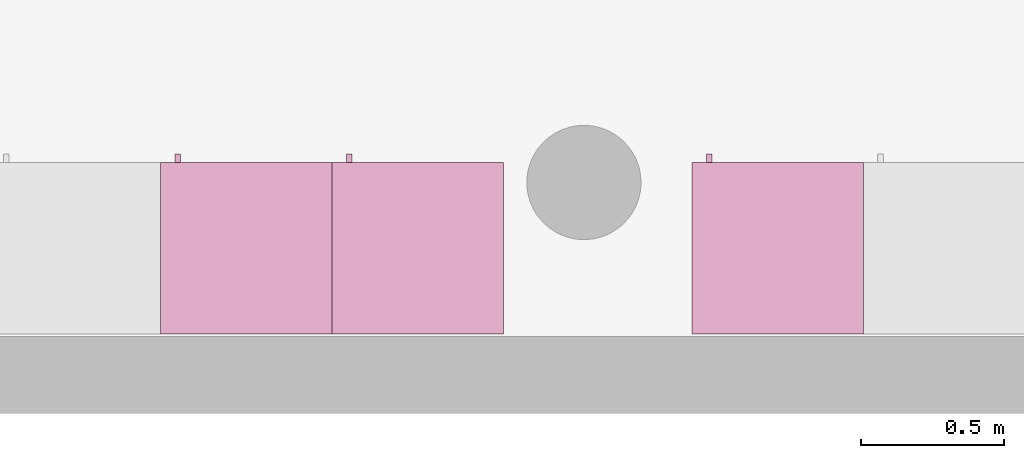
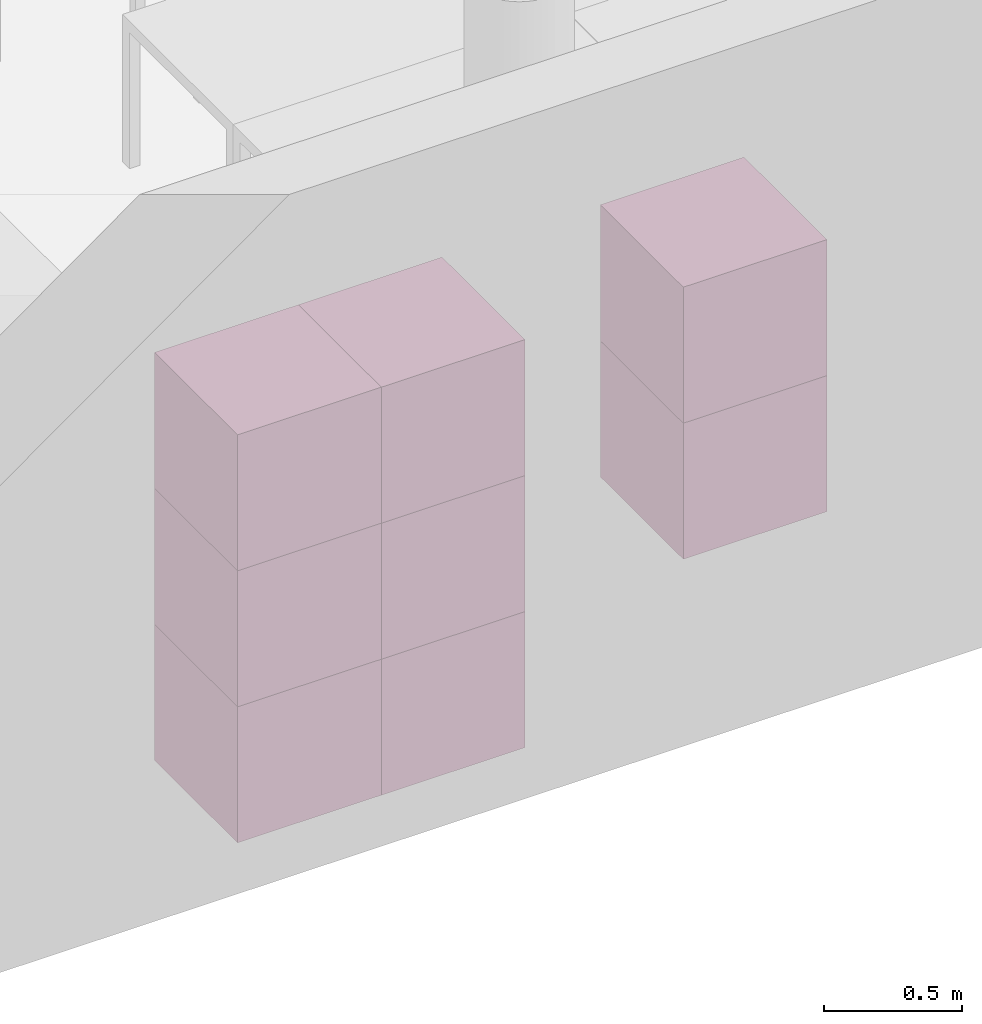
"""IFC4 building model written with IfcOpenShell, lengths in metres."""

from ifc_helpers import new_model, entity, si_unit, converted_unit, derived_unit, frame, origin, place, context, subcontext, project, spatial, faceted_brep, element, save


model = new_model("IFC4")

# Units and contexts
model_context = context("Model", 3, precision=1e-05, world=origin())
body_context = subcontext(model_context, "Body", "Model", "MODEL_VIEW")
ifc_project = project(units=[si_unit("LENGTHUNIT", "METRE"), si_unit("AREAUNIT", "SQUARE_METRE"), si_unit("VOLUMEUNIT", "CUBIC_METRE"), si_unit("MASSUNIT", "GRAM", prefix="KILO"), converted_unit("PLANEANGLEUNIT", "DEGREE", entity("IfcPlaneAngleMeasure", 0.0174532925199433), si_unit("PLANEANGLEUNIT", "RADIAN"), dimensions=[0, 0, 0, 0, 0, 0, 0]), derived_unit("THERMALTRANSMITTANCEUNIT", [(si_unit("POWERUNIT", "WATT"), 1), (si_unit("THERMODYNAMICTEMPERATUREUNIT", "KELVIN"), -1), (si_unit("LENGTHUNIT", "METRE"), -2)]), derived_unit("VOLUMETRICFLOWRATEUNIT", [(si_unit("LENGTHUNIT", "METRE"), 3), (converted_unit("TIMEUNIT", "hour", entity("IfcTimeMeasure", 3600.0), si_unit("TIMEUNIT", "SECOND"), dimensions=[0, 0, 1, 0, 0, 0, 0]), -1), (si_unit("LENGTHUNIT", "METRE"), -1)])], contexts=[model_context])

# Building, storeys
building_placement = place(None, origin())
building = spatial("IfcBuilding", under=ifc_project, at=building_placement, Name="HABITATGE PLURIFAMILIAR", CompositionType="ELEMENT")
storey_1_placement = place(building_placement, frame((0.0, 0.0, 15.28)))
storey_1 = spatial("IfcBuildingStorey", under=building, at=storey_1_placement, Name="PLANTA QUARTA", CompositionType="ELEMENT", Elevation=15.28)
storey_2_placement = place(storey_1_placement, frame((0.0, 0.0, 12.27)))
storey_2 = spatial("IfcBuildingStorey", under=storey_1, at=storey_2_placement, Name="NOU", CompositionType="PARTIAL")

# Furniture
furniture_1_placement = place(storey_2_placement, frame((416.51527037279, 13.1194598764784, -11.77)))
element("IfcFurniture", 1, at=furniture_1_placement, inside=storey_2, Name="Armai 60x60x60_P4", context=body_context, shape_type="Brep", body=[
    faceted_brep([(0.0, 0.6, 0.02), (0.0, 0.6, 0.0), (0.6, 0.6, 0.0), (0.6, 0.6, 0.02), (0.6, 0.0, 0.0), (0.6, 0.0, 0.02), (0.0, 0.0, 0.0), (0.0, 0.0, 0.02)], [[[0, 1, 2, 3]], [[3, 2, 4, 5]], [[5, 4, 6, 7]], [[7, 6, 1, 0]], [[0, 3, 5, 7]], [[1, 6, 4, 2]]], orient=[[False], [False], [False], [False], [False], [False]]),
    faceted_brep([(0.580000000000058, 0.0, 0.58), (0.580000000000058, 0.0200000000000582, 0.58), (0.580000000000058, 0.0200000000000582, 0.02), (0.580000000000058, 0.0, 0.02), (0.0200000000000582, 0.0200000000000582, 0.02), (0.0200000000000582, 0.0, 0.02), (0.0200000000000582, 0.0200000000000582, 0.58), (0.0200000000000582, 0.0, 0.58)], [[[0, 1, 2, 3]], [[3, 2, 4, 5]], [[5, 4, 6, 7]], [[7, 6, 1, 0]], [[0, 3, 5, 7]], [[1, 6, 4, 2]]], orient=[[False], [False], [False], [False], [False], [False]]),
    faceted_brep([(0.0200000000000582, 0.6, 0.58), (0.0, 0.6, 0.58), (0.0, 0.6, 0.02), (0.0200000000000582, 0.6, 0.02), (0.0, 0.0, 0.02), (0.0200000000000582, 0.0, 0.02), (0.0, 0.0, 0.58), (0.0200000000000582, 0.0, 0.58)], [[[0, 1, 2, 3]], [[3, 2, 4, 5]], [[5, 4, 6, 7]], [[7, 6, 1, 0]], [[0, 3, 5, 7]], [[1, 6, 4, 2]]], orient=[[False], [False], [False], [False], [False], [False]]),
    faceted_brep([(0.0, 0.58, 0.58), (0.0, 0.6, 0.58), (0.0, 0.6, 0.02), (0.0, 0.58, 0.02), (0.02, 0.6, 0.02), (0.02, 0.58, 0.02), (0.02, 0.6, 0.58), (0.02, 0.58, 0.58)], [[[0, 1, 2, 3]], [[3, 2, 4, 5]], [[5, 4, 6, 7]], [[7, 6, 1, 0]], [[0, 3, 5, 7]], [[1, 6, 4, 2]]], orient=[[False], [False], [False], [False], [False], [False]]),
    faceted_brep([(0.6, 0.6, 0.58), (0.58, 0.6, 0.58), (0.58, 0.6, 0.02), (0.6, 0.6, 0.02), (0.58, 0.0, 0.02), (0.6, 0.0, 0.02), (0.58, 0.0, 0.58), (0.6, 0.0, 0.58)], [[[0, 1, 2, 3]], [[3, 2, 4, 5]], [[5, 4, 6, 7]], [[7, 6, 1, 0]], [[0, 3, 5, 7]], [[1, 6, 4, 2]]], orient=[[False], [False], [False], [False], [False], [False]]),
    faceted_brep([(0.0, 0.600000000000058, 0.6), (0.0, 0.600000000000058, 0.58), (0.600000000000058, 0.600000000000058, 0.58), (0.600000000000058, 0.600000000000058, 0.6), (0.600000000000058, 0.0, 0.58), (0.600000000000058, 0.0, 0.6), (0.0, 0.0, 0.58), (0.0, 0.0, 0.6)], [[[0, 1, 2, 3]], [[3, 2, 4, 5]], [[5, 4, 6, 7]], [[7, 6, 1, 0]], [[0, 3, 5, 7]], [[1, 6, 4, 2]]], orient=[[False], [False], [False], [False], [False], [False]]),
    faceted_brep([(0.580000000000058, 0.580000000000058, 0.58), (0.580000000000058, 0.600000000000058, 0.58), (0.580000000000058, 0.600000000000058, 0.02), (0.580000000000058, 0.580000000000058, 0.02), (0.02, 0.600000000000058, 0.02), (0.02, 0.580000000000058, 0.02), (0.02, 0.600000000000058, 0.58), (0.02, 0.580000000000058, 0.58)], [[[0, 1, 2, 3]], [[3, 2, 4, 5]], [[5, 4, 6, 7]], [[7, 6, 1, 0]], [[0, 3, 5, 7]], [[1, 6, 4, 2]]], orient=[[False], [False], [False], [False], [False], [False]]),
    faceted_brep([(0.0700000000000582, 0.600000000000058, 0.358064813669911), (0.0700000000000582, 0.630000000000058, 0.358064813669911), (0.0700000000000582, 0.630000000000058, 0.258064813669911), (0.0700000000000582, 0.600000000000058, 0.258064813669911), (0.0500000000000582, 0.630000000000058, 0.258064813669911), (0.0500000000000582, 0.600000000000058, 0.258064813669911), (0.0500000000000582, 0.630000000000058, 0.358064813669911), (0.0500000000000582, 0.600000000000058, 0.358064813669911)], [[[0, 1, 2, 3]], [[3, 2, 4, 5]], [[5, 4, 6, 7]], [[7, 6, 1, 0]], [[0, 3, 5, 7]], [[1, 6, 4, 2]]], orient=[[False], [False], [False], [False], [False], [False]]),
])
furniture_2_placement = place(storey_2_placement, frame((416.51527037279, 13.1194598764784, -11.17)))
element("IfcFurniture", 2, at=furniture_2_placement, inside=storey_2, Name="Armai 60x60x60_P4", context=body_context, shape_type="Brep", body=[
    faceted_brep([(0.0, 0.6, 0.02), (0.0, 0.6, 0.0), (0.6, 0.6, 0.0), (0.6, 0.6, 0.02), (0.6, 0.0, 0.0), (0.6, 0.0, 0.02), (0.0, 0.0, 0.0), (0.0, 0.0, 0.02)], [[[0, 1, 2, 3]], [[3, 2, 4, 5]], [[5, 4, 6, 7]], [[7, 6, 1, 0]], [[0, 3, 5, 7]], [[1, 6, 4, 2]]], orient=[[False], [False], [False], [False], [False], [False]]),
    faceted_brep([(0.580000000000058, 0.0, 0.58), (0.580000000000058, 0.0200000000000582, 0.58), (0.580000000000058, 0.0200000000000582, 0.02), (0.580000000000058, 0.0, 0.02), (0.0200000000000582, 0.0200000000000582, 0.02), (0.0200000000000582, 0.0, 0.02), (0.0200000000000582, 0.0200000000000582, 0.58), (0.0200000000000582, 0.0, 0.58)], [[[0, 1, 2, 3]], [[3, 2, 4, 5]], [[5, 4, 6, 7]], [[7, 6, 1, 0]], [[0, 3, 5, 7]], [[1, 6, 4, 2]]], orient=[[False], [False], [False], [False], [False], [False]]),
    faceted_brep([(0.0200000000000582, 0.6, 0.58), (0.0, 0.6, 0.58), (0.0, 0.6, 0.02), (0.0200000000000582, 0.6, 0.02), (0.0, 0.0, 0.02), (0.0200000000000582, 0.0, 0.02), (0.0, 0.0, 0.58), (0.0200000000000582, 0.0, 0.58)], [[[0, 1, 2, 3]], [[3, 2, 4, 5]], [[5, 4, 6, 7]], [[7, 6, 1, 0]], [[0, 3, 5, 7]], [[1, 6, 4, 2]]], orient=[[False], [False], [False], [False], [False], [False]]),
    faceted_brep([(0.0, 0.58, 0.58), (0.0, 0.6, 0.58), (0.0, 0.6, 0.02), (0.0, 0.58, 0.02), (0.02, 0.6, 0.02), (0.02, 0.58, 0.02), (0.02, 0.6, 0.58), (0.02, 0.58, 0.58)], [[[0, 1, 2, 3]], [[3, 2, 4, 5]], [[5, 4, 6, 7]], [[7, 6, 1, 0]], [[0, 3, 5, 7]], [[1, 6, 4, 2]]], orient=[[False], [False], [False], [False], [False], [False]]),
    faceted_brep([(0.6, 0.6, 0.58), (0.58, 0.6, 0.58), (0.58, 0.6, 0.02), (0.6, 0.6, 0.02), (0.58, 0.0, 0.02), (0.6, 0.0, 0.02), (0.58, 0.0, 0.58), (0.6, 0.0, 0.58)], [[[0, 1, 2, 3]], [[3, 2, 4, 5]], [[5, 4, 6, 7]], [[7, 6, 1, 0]], [[0, 3, 5, 7]], [[1, 6, 4, 2]]], orient=[[False], [False], [False], [False], [False], [False]]),
    faceted_brep([(0.0, 0.600000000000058, 0.6), (0.0, 0.600000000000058, 0.58), (0.600000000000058, 0.600000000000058, 0.58), (0.600000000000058, 0.600000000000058, 0.6), (0.600000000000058, 0.0, 0.58), (0.600000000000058, 0.0, 0.6), (0.0, 0.0, 0.58), (0.0, 0.0, 0.6)], [[[0, 1, 2, 3]], [[3, 2, 4, 5]], [[5, 4, 6, 7]], [[7, 6, 1, 0]], [[0, 3, 5, 7]], [[1, 6, 4, 2]]], orient=[[False], [False], [False], [False], [False], [False]]),
    faceted_brep([(0.580000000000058, 0.580000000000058, 0.58), (0.580000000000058, 0.600000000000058, 0.58), (0.580000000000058, 0.600000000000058, 0.02), (0.580000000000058, 0.580000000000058, 0.02), (0.02, 0.600000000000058, 0.02), (0.02, 0.580000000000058, 0.02), (0.02, 0.600000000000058, 0.58), (0.02, 0.580000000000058, 0.58)], [[[0, 1, 2, 3]], [[3, 2, 4, 5]], [[5, 4, 6, 7]], [[7, 6, 1, 0]], [[0, 3, 5, 7]], [[1, 6, 4, 2]]], orient=[[False], [False], [False], [False], [False], [False]]),
    faceted_brep([(0.0700000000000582, 0.600000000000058, 0.358064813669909), (0.0700000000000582, 0.630000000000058, 0.358064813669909), (0.0700000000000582, 0.630000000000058, 0.258064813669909), (0.0700000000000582, 0.600000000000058, 0.258064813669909), (0.0500000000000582, 0.630000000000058, 0.258064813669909), (0.0500000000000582, 0.600000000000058, 0.258064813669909), (0.0500000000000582, 0.630000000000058, 0.358064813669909), (0.0500000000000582, 0.600000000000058, 0.358064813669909)], [[[0, 1, 2, 3]], [[3, 2, 4, 5]], [[5, 4, 6, 7]], [[7, 6, 1, 0]], [[0, 3, 5, 7]], [[1, 6, 4, 2]]], orient=[[False], [False], [False], [False], [False], [False]]),
])
furniture_3_placement = place(storey_2_placement, frame((414.65527037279, 13.1194598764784, -12.37)))
element("IfcFurniture", 3, at=furniture_3_placement, inside=storey_2, Name="Armai 60x60x60_P4", context=body_context, shape_type="Brep", body=[
    faceted_brep([(0.0, 0.6, 0.02), (0.0, 0.6, 0.0), (0.6, 0.6, 0.0), (0.6, 0.6, 0.02), (0.6, 0.0, 0.0), (0.6, 0.0, 0.02), (0.0, 0.0, 0.0), (0.0, 0.0, 0.02)], [[[0, 1, 2, 3]], [[3, 2, 4, 5]], [[5, 4, 6, 7]], [[7, 6, 1, 0]], [[0, 3, 5, 7]], [[1, 6, 4, 2]]], orient=[[False], [False], [False], [False], [False], [False]]),
    faceted_brep([(0.580000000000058, 0.0, 0.58), (0.580000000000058, 0.0200000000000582, 0.58), (0.580000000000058, 0.0200000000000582, 0.02), (0.580000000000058, 0.0, 0.02), (0.0200000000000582, 0.0200000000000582, 0.02), (0.0200000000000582, 0.0, 0.02), (0.0200000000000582, 0.0200000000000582, 0.58), (0.0200000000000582, 0.0, 0.58)], [[[0, 1, 2, 3]], [[3, 2, 4, 5]], [[5, 4, 6, 7]], [[7, 6, 1, 0]], [[0, 3, 5, 7]], [[1, 6, 4, 2]]], orient=[[False], [False], [False], [False], [False], [False]]),
    faceted_brep([(0.0200000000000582, 0.6, 0.58), (0.0, 0.6, 0.58), (0.0, 0.6, 0.02), (0.0200000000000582, 0.6, 0.02), (0.0, 0.0, 0.02), (0.0200000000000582, 0.0, 0.02), (0.0, 0.0, 0.58), (0.0200000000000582, 0.0, 0.58)], [[[0, 1, 2, 3]], [[3, 2, 4, 5]], [[5, 4, 6, 7]], [[7, 6, 1, 0]], [[0, 3, 5, 7]], [[1, 6, 4, 2]]], orient=[[False], [False], [False], [False], [False], [False]]),
    faceted_brep([(0.0, 0.58, 0.58), (0.0, 0.6, 0.58), (0.0, 0.6, 0.02), (0.0, 0.58, 0.02), (0.02, 0.6, 0.02), (0.02, 0.58, 0.02), (0.02, 0.6, 0.58), (0.02, 0.58, 0.58)], [[[0, 1, 2, 3]], [[3, 2, 4, 5]], [[5, 4, 6, 7]], [[7, 6, 1, 0]], [[0, 3, 5, 7]], [[1, 6, 4, 2]]], orient=[[False], [False], [False], [False], [False], [False]]),
    faceted_brep([(0.6, 0.6, 0.58), (0.58, 0.6, 0.58), (0.58, 0.6, 0.02), (0.6, 0.6, 0.02), (0.58, 0.0, 0.02), (0.6, 0.0, 0.02), (0.58, 0.0, 0.58), (0.6, 0.0, 0.58)], [[[0, 1, 2, 3]], [[3, 2, 4, 5]], [[5, 4, 6, 7]], [[7, 6, 1, 0]], [[0, 3, 5, 7]], [[1, 6, 4, 2]]], orient=[[False], [False], [False], [False], [False], [False]]),
    faceted_brep([(0.0, 0.600000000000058, 0.6), (0.0, 0.600000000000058, 0.58), (0.600000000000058, 0.600000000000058, 0.58), (0.600000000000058, 0.600000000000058, 0.6), (0.600000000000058, 0.0, 0.58), (0.600000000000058, 0.0, 0.6), (0.0, 0.0, 0.58), (0.0, 0.0, 0.6)], [[[0, 1, 2, 3]], [[3, 2, 4, 5]], [[5, 4, 6, 7]], [[7, 6, 1, 0]], [[0, 3, 5, 7]], [[1, 6, 4, 2]]], orient=[[False], [False], [False], [False], [False], [False]]),
    faceted_brep([(0.580000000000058, 0.580000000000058, 0.58), (0.580000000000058, 0.600000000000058, 0.58), (0.580000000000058, 0.600000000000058, 0.02), (0.580000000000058, 0.580000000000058, 0.02), (0.02, 0.600000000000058, 0.02), (0.02, 0.580000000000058, 0.02), (0.02, 0.600000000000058, 0.58), (0.02, 0.580000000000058, 0.58)], [[[0, 1, 2, 3]], [[3, 2, 4, 5]], [[5, 4, 6, 7]], [[7, 6, 1, 0]], [[0, 3, 5, 7]], [[1, 6, 4, 2]]], orient=[[False], [False], [False], [False], [False], [False]]),
    faceted_brep([(0.0700000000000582, 0.600000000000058, 0.358064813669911), (0.0700000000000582, 0.630000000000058, 0.358064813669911), (0.0700000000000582, 0.630000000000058, 0.258064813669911), (0.0700000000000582, 0.600000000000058, 0.258064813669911), (0.0500000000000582, 0.630000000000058, 0.258064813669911), (0.0500000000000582, 0.600000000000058, 0.258064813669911), (0.0500000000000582, 0.630000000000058, 0.358064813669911), (0.0500000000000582, 0.600000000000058, 0.358064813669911)], [[[0, 1, 2, 3]], [[3, 2, 4, 5]], [[5, 4, 6, 7]], [[7, 6, 1, 0]], [[0, 3, 5, 7]], [[1, 6, 4, 2]]], orient=[[False], [False], [False], [False], [False], [False]]),
])
furniture_4_placement = place(storey_2_placement, frame((415.25527037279, 13.1194598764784, -12.37)))
element("IfcFurniture", 4, at=furniture_4_placement, inside=storey_2, Name="Armai 60x60x60_P4", context=body_context, shape_type="Brep", body=[
    faceted_brep([(0.0, 0.6, 0.02), (0.0, 0.6, 0.0), (0.6, 0.6, 0.0), (0.6, 0.6, 0.02), (0.6, 0.0, 0.0), (0.6, 0.0, 0.02), (0.0, 0.0, 0.0), (0.0, 0.0, 0.02)], [[[0, 1, 2, 3]], [[3, 2, 4, 5]], [[5, 4, 6, 7]], [[7, 6, 1, 0]], [[0, 3, 5, 7]], [[1, 6, 4, 2]]], orient=[[False], [False], [False], [False], [False], [False]]),
    faceted_brep([(0.580000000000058, 0.0, 0.58), (0.580000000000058, 0.0200000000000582, 0.58), (0.580000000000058, 0.0200000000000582, 0.02), (0.580000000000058, 0.0, 0.02), (0.0200000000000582, 0.0200000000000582, 0.02), (0.0200000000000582, 0.0, 0.02), (0.0200000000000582, 0.0200000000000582, 0.58), (0.0200000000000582, 0.0, 0.58)], [[[0, 1, 2, 3]], [[3, 2, 4, 5]], [[5, 4, 6, 7]], [[7, 6, 1, 0]], [[0, 3, 5, 7]], [[1, 6, 4, 2]]], orient=[[False], [False], [False], [False], [False], [False]]),
    faceted_brep([(0.0200000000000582, 0.6, 0.58), (0.0, 0.6, 0.58), (0.0, 0.6, 0.02), (0.0200000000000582, 0.6, 0.02), (0.0, 0.0, 0.02), (0.0200000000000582, 0.0, 0.02), (0.0, 0.0, 0.58), (0.0200000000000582, 0.0, 0.58)], [[[0, 1, 2, 3]], [[3, 2, 4, 5]], [[5, 4, 6, 7]], [[7, 6, 1, 0]], [[0, 3, 5, 7]], [[1, 6, 4, 2]]], orient=[[False], [False], [False], [False], [False], [False]]),
    faceted_brep([(0.0, 0.58, 0.58), (0.0, 0.6, 0.58), (0.0, 0.6, 0.02), (0.0, 0.58, 0.02), (0.02, 0.6, 0.02), (0.02, 0.58, 0.02), (0.02, 0.6, 0.58), (0.02, 0.58, 0.58)], [[[0, 1, 2, 3]], [[3, 2, 4, 5]], [[5, 4, 6, 7]], [[7, 6, 1, 0]], [[0, 3, 5, 7]], [[1, 6, 4, 2]]], orient=[[False], [False], [False], [False], [False], [False]]),
    faceted_brep([(0.6, 0.6, 0.58), (0.58, 0.6, 0.58), (0.58, 0.6, 0.02), (0.6, 0.6, 0.02), (0.58, 0.0, 0.02), (0.6, 0.0, 0.02), (0.58, 0.0, 0.58), (0.6, 0.0, 0.58)], [[[0, 1, 2, 3]], [[3, 2, 4, 5]], [[5, 4, 6, 7]], [[7, 6, 1, 0]], [[0, 3, 5, 7]], [[1, 6, 4, 2]]], orient=[[False], [False], [False], [False], [False], [False]]),
    faceted_brep([(0.0, 0.600000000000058, 0.6), (0.0, 0.600000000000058, 0.58), (0.600000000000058, 0.600000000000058, 0.58), (0.600000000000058, 0.600000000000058, 0.6), (0.600000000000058, 0.0, 0.58), (0.600000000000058, 0.0, 0.6), (0.0, 0.0, 0.58), (0.0, 0.0, 0.6)], [[[0, 1, 2, 3]], [[3, 2, 4, 5]], [[5, 4, 6, 7]], [[7, 6, 1, 0]], [[0, 3, 5, 7]], [[1, 6, 4, 2]]], orient=[[False], [False], [False], [False], [False], [False]]),
    faceted_brep([(0.580000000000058, 0.580000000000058, 0.58), (0.580000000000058, 0.600000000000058, 0.58), (0.580000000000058, 0.600000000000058, 0.02), (0.580000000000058, 0.580000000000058, 0.02), (0.02, 0.600000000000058, 0.02), (0.02, 0.580000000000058, 0.02), (0.02, 0.600000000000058, 0.58), (0.02, 0.580000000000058, 0.58)], [[[0, 1, 2, 3]], [[3, 2, 4, 5]], [[5, 4, 6, 7]], [[7, 6, 1, 0]], [[0, 3, 5, 7]], [[1, 6, 4, 2]]], orient=[[False], [False], [False], [False], [False], [False]]),
    faceted_brep([(0.0700000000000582, 0.600000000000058, 0.358064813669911), (0.0700000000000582, 0.630000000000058, 0.358064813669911), (0.0700000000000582, 0.630000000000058, 0.258064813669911), (0.0700000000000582, 0.600000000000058, 0.258064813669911), (0.0500000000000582, 0.630000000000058, 0.258064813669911), (0.0500000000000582, 0.600000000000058, 0.258064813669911), (0.0500000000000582, 0.630000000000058, 0.358064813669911), (0.0500000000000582, 0.600000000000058, 0.358064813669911)], [[[0, 1, 2, 3]], [[3, 2, 4, 5]], [[5, 4, 6, 7]], [[7, 6, 1, 0]], [[0, 3, 5, 7]], [[1, 6, 4, 2]]], orient=[[False], [False], [False], [False], [False], [False]]),
])
furniture_5_placement = place(storey_2_placement, frame((414.65527037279, 13.1194598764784, -11.77)))
element("IfcFurniture", 5, at=furniture_5_placement, inside=storey_2, Name="Armai 60x60x60_P4", context=body_context, shape_type="Brep", body=[
    faceted_brep([(0.0, 0.6, 0.02), (0.0, 0.6, 0.0), (0.6, 0.6, 0.0), (0.6, 0.6, 0.02), (0.6, 0.0, 0.0), (0.6, 0.0, 0.02), (0.0, 0.0, 0.0), (0.0, 0.0, 0.02)], [[[0, 1, 2, 3]], [[3, 2, 4, 5]], [[5, 4, 6, 7]], [[7, 6, 1, 0]], [[0, 3, 5, 7]], [[1, 6, 4, 2]]], orient=[[False], [False], [False], [False], [False], [False]]),
    faceted_brep([(0.580000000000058, 0.0, 0.58), (0.580000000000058, 0.0200000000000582, 0.58), (0.580000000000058, 0.0200000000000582, 0.02), (0.580000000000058, 0.0, 0.02), (0.0200000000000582, 0.0200000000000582, 0.02), (0.0200000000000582, 0.0, 0.02), (0.0200000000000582, 0.0200000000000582, 0.58), (0.0200000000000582, 0.0, 0.58)], [[[0, 1, 2, 3]], [[3, 2, 4, 5]], [[5, 4, 6, 7]], [[7, 6, 1, 0]], [[0, 3, 5, 7]], [[1, 6, 4, 2]]], orient=[[False], [False], [False], [False], [False], [False]]),
    faceted_brep([(0.0200000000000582, 0.6, 0.58), (0.0, 0.6, 0.58), (0.0, 0.6, 0.02), (0.0200000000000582, 0.6, 0.02), (0.0, 0.0, 0.02), (0.0200000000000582, 0.0, 0.02), (0.0, 0.0, 0.58), (0.0200000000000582, 0.0, 0.58)], [[[0, 1, 2, 3]], [[3, 2, 4, 5]], [[5, 4, 6, 7]], [[7, 6, 1, 0]], [[0, 3, 5, 7]], [[1, 6, 4, 2]]], orient=[[False], [False], [False], [False], [False], [False]]),
    faceted_brep([(0.0, 0.58, 0.58), (0.0, 0.6, 0.58), (0.0, 0.6, 0.02), (0.0, 0.58, 0.02), (0.02, 0.6, 0.02), (0.02, 0.58, 0.02), (0.02, 0.6, 0.58), (0.02, 0.58, 0.58)], [[[0, 1, 2, 3]], [[3, 2, 4, 5]], [[5, 4, 6, 7]], [[7, 6, 1, 0]], [[0, 3, 5, 7]], [[1, 6, 4, 2]]], orient=[[False], [False], [False], [False], [False], [False]]),
    faceted_brep([(0.6, 0.6, 0.58), (0.58, 0.6, 0.58), (0.58, 0.6, 0.02), (0.6, 0.6, 0.02), (0.58, 0.0, 0.02), (0.6, 0.0, 0.02), (0.58, 0.0, 0.58), (0.6, 0.0, 0.58)], [[[0, 1, 2, 3]], [[3, 2, 4, 5]], [[5, 4, 6, 7]], [[7, 6, 1, 0]], [[0, 3, 5, 7]], [[1, 6, 4, 2]]], orient=[[False], [False], [False], [False], [False], [False]]),
    faceted_brep([(0.0, 0.600000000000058, 0.6), (0.0, 0.600000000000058, 0.58), (0.600000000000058, 0.600000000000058, 0.58), (0.600000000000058, 0.600000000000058, 0.6), (0.600000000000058, 0.0, 0.58), (0.600000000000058, 0.0, 0.6), (0.0, 0.0, 0.58), (0.0, 0.0, 0.6)], [[[0, 1, 2, 3]], [[3, 2, 4, 5]], [[5, 4, 6, 7]], [[7, 6, 1, 0]], [[0, 3, 5, 7]], [[1, 6, 4, 2]]], orient=[[False], [False], [False], [False], [False], [False]]),
    faceted_brep([(0.580000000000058, 0.580000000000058, 0.58), (0.580000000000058, 0.600000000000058, 0.58), (0.580000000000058, 0.600000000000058, 0.02), (0.580000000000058, 0.580000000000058, 0.02), (0.02, 0.600000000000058, 0.02), (0.02, 0.580000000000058, 0.02), (0.02, 0.600000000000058, 0.58), (0.02, 0.580000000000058, 0.58)], [[[0, 1, 2, 3]], [[3, 2, 4, 5]], [[5, 4, 6, 7]], [[7, 6, 1, 0]], [[0, 3, 5, 7]], [[1, 6, 4, 2]]], orient=[[False], [False], [False], [False], [False], [False]]),
    faceted_brep([(0.0700000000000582, 0.600000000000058, 0.358064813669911), (0.0700000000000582, 0.630000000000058, 0.358064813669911), (0.0700000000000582, 0.630000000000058, 0.258064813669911), (0.0700000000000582, 0.600000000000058, 0.258064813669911), (0.0500000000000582, 0.630000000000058, 0.258064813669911), (0.0500000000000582, 0.600000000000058, 0.258064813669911), (0.0500000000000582, 0.630000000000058, 0.358064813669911), (0.0500000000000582, 0.600000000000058, 0.358064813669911)], [[[0, 1, 2, 3]], [[3, 2, 4, 5]], [[5, 4, 6, 7]], [[7, 6, 1, 0]], [[0, 3, 5, 7]], [[1, 6, 4, 2]]], orient=[[False], [False], [False], [False], [False], [False]]),
])
furniture_6_placement = place(storey_2_placement, frame((415.25527037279, 13.1194598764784, -11.77)))
element("IfcFurniture", 6, at=furniture_6_placement, inside=storey_2, Name="Armai 60x60x60_P4", context=body_context, shape_type="Brep", body=[
    faceted_brep([(0.0, 0.6, 0.02), (0.0, 0.6, 0.0), (0.6, 0.6, 0.0), (0.6, 0.6, 0.02), (0.6, 0.0, 0.0), (0.6, 0.0, 0.02), (0.0, 0.0, 0.0), (0.0, 0.0, 0.02)], [[[0, 1, 2, 3]], [[3, 2, 4, 5]], [[5, 4, 6, 7]], [[7, 6, 1, 0]], [[0, 3, 5, 7]], [[1, 6, 4, 2]]], orient=[[False], [False], [False], [False], [False], [False]]),
    faceted_brep([(0.580000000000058, 0.0, 0.58), (0.580000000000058, 0.0200000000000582, 0.58), (0.580000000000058, 0.0200000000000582, 0.02), (0.580000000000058, 0.0, 0.02), (0.0200000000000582, 0.0200000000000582, 0.02), (0.0200000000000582, 0.0, 0.02), (0.0200000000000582, 0.0200000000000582, 0.58), (0.0200000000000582, 0.0, 0.58)], [[[0, 1, 2, 3]], [[3, 2, 4, 5]], [[5, 4, 6, 7]], [[7, 6, 1, 0]], [[0, 3, 5, 7]], [[1, 6, 4, 2]]], orient=[[False], [False], [False], [False], [False], [False]]),
    faceted_brep([(0.0200000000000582, 0.6, 0.58), (0.0, 0.6, 0.58), (0.0, 0.6, 0.02), (0.0200000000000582, 0.6, 0.02), (0.0, 0.0, 0.02), (0.0200000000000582, 0.0, 0.02), (0.0, 0.0, 0.58), (0.0200000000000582, 0.0, 0.58)], [[[0, 1, 2, 3]], [[3, 2, 4, 5]], [[5, 4, 6, 7]], [[7, 6, 1, 0]], [[0, 3, 5, 7]], [[1, 6, 4, 2]]], orient=[[False], [False], [False], [False], [False], [False]]),
    faceted_brep([(0.0, 0.58, 0.58), (0.0, 0.6, 0.58), (0.0, 0.6, 0.02), (0.0, 0.58, 0.02), (0.02, 0.6, 0.02), (0.02, 0.58, 0.02), (0.02, 0.6, 0.58), (0.02, 0.58, 0.58)], [[[0, 1, 2, 3]], [[3, 2, 4, 5]], [[5, 4, 6, 7]], [[7, 6, 1, 0]], [[0, 3, 5, 7]], [[1, 6, 4, 2]]], orient=[[False], [False], [False], [False], [False], [False]]),
    faceted_brep([(0.6, 0.6, 0.58), (0.58, 0.6, 0.58), (0.58, 0.6, 0.02), (0.6, 0.6, 0.02), (0.58, 0.0, 0.02), (0.6, 0.0, 0.02), (0.58, 0.0, 0.58), (0.6, 0.0, 0.58)], [[[0, 1, 2, 3]], [[3, 2, 4, 5]], [[5, 4, 6, 7]], [[7, 6, 1, 0]], [[0, 3, 5, 7]], [[1, 6, 4, 2]]], orient=[[False], [False], [False], [False], [False], [False]]),
    faceted_brep([(0.0, 0.600000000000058, 0.6), (0.0, 0.600000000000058, 0.58), (0.600000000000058, 0.600000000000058, 0.58), (0.600000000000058, 0.600000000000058, 0.6), (0.600000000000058, 0.0, 0.58), (0.600000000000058, 0.0, 0.6), (0.0, 0.0, 0.58), (0.0, 0.0, 0.6)], [[[0, 1, 2, 3]], [[3, 2, 4, 5]], [[5, 4, 6, 7]], [[7, 6, 1, 0]], [[0, 3, 5, 7]], [[1, 6, 4, 2]]], orient=[[False], [False], [False], [False], [False], [False]]),
    faceted_brep([(0.580000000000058, 0.580000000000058, 0.58), (0.580000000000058, 0.600000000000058, 0.58), (0.580000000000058, 0.600000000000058, 0.02), (0.580000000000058, 0.580000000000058, 0.02), (0.02, 0.600000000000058, 0.02), (0.02, 0.580000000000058, 0.02), (0.02, 0.600000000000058, 0.58), (0.02, 0.580000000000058, 0.58)], [[[0, 1, 2, 3]], [[3, 2, 4, 5]], [[5, 4, 6, 7]], [[7, 6, 1, 0]], [[0, 3, 5, 7]], [[1, 6, 4, 2]]], orient=[[False], [False], [False], [False], [False], [False]]),
    faceted_brep([(0.0700000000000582, 0.600000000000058, 0.358064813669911), (0.0700000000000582, 0.630000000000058, 0.358064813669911), (0.0700000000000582, 0.630000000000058, 0.258064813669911), (0.0700000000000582, 0.600000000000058, 0.258064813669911), (0.0500000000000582, 0.630000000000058, 0.258064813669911), (0.0500000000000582, 0.600000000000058, 0.258064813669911), (0.0500000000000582, 0.630000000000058, 0.358064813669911), (0.0500000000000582, 0.600000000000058, 0.358064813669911)], [[[0, 1, 2, 3]], [[3, 2, 4, 5]], [[5, 4, 6, 7]], [[7, 6, 1, 0]], [[0, 3, 5, 7]], [[1, 6, 4, 2]]], orient=[[False], [False], [False], [False], [False], [False]]),
])
furniture_7_placement = place(storey_2_placement, frame((414.65527037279, 13.1194598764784, -11.17)))
element("IfcFurniture", 7, at=furniture_7_placement, inside=storey_2, Name="Armai 60x60x60_P4", context=body_context, shape_type="Brep", body=[
    faceted_brep([(0.0, 0.6, 0.02), (0.0, 0.6, 0.0), (0.6, 0.6, 0.0), (0.6, 0.6, 0.02), (0.6, 0.0, 0.0), (0.6, 0.0, 0.02), (0.0, 0.0, 0.0), (0.0, 0.0, 0.02)], [[[0, 1, 2, 3]], [[3, 2, 4, 5]], [[5, 4, 6, 7]], [[7, 6, 1, 0]], [[0, 3, 5, 7]], [[1, 6, 4, 2]]], orient=[[False], [False], [False], [False], [False], [False]]),
    faceted_brep([(0.580000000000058, 0.0, 0.58), (0.580000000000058, 0.0200000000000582, 0.58), (0.580000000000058, 0.0200000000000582, 0.02), (0.580000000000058, 0.0, 0.02), (0.0200000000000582, 0.0200000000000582, 0.02), (0.0200000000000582, 0.0, 0.02), (0.0200000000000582, 0.0200000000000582, 0.58), (0.0200000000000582, 0.0, 0.58)], [[[0, 1, 2, 3]], [[3, 2, 4, 5]], [[5, 4, 6, 7]], [[7, 6, 1, 0]], [[0, 3, 5, 7]], [[1, 6, 4, 2]]], orient=[[False], [False], [False], [False], [False], [False]]),
    faceted_brep([(0.0200000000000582, 0.6, 0.58), (0.0, 0.6, 0.58), (0.0, 0.6, 0.02), (0.0200000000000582, 0.6, 0.02), (0.0, 0.0, 0.02), (0.0200000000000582, 0.0, 0.02), (0.0, 0.0, 0.58), (0.0200000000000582, 0.0, 0.58)], [[[0, 1, 2, 3]], [[3, 2, 4, 5]], [[5, 4, 6, 7]], [[7, 6, 1, 0]], [[0, 3, 5, 7]], [[1, 6, 4, 2]]], orient=[[False], [False], [False], [False], [False], [False]]),
    faceted_brep([(0.0, 0.58, 0.58), (0.0, 0.6, 0.58), (0.0, 0.6, 0.02), (0.0, 0.58, 0.02), (0.02, 0.6, 0.02), (0.02, 0.58, 0.02), (0.02, 0.6, 0.58), (0.02, 0.58, 0.58)], [[[0, 1, 2, 3]], [[3, 2, 4, 5]], [[5, 4, 6, 7]], [[7, 6, 1, 0]], [[0, 3, 5, 7]], [[1, 6, 4, 2]]], orient=[[False], [False], [False], [False], [False], [False]]),
    faceted_brep([(0.6, 0.6, 0.58), (0.58, 0.6, 0.58), (0.58, 0.6, 0.02), (0.6, 0.6, 0.02), (0.58, 0.0, 0.02), (0.6, 0.0, 0.02), (0.58, 0.0, 0.58), (0.6, 0.0, 0.58)], [[[0, 1, 2, 3]], [[3, 2, 4, 5]], [[5, 4, 6, 7]], [[7, 6, 1, 0]], [[0, 3, 5, 7]], [[1, 6, 4, 2]]], orient=[[False], [False], [False], [False], [False], [False]]),
    faceted_brep([(0.0, 0.600000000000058, 0.6), (0.0, 0.600000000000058, 0.58), (0.600000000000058, 0.600000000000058, 0.58), (0.600000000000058, 0.600000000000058, 0.6), (0.600000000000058, 0.0, 0.58), (0.600000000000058, 0.0, 0.6), (0.0, 0.0, 0.58), (0.0, 0.0, 0.6)], [[[0, 1, 2, 3]], [[3, 2, 4, 5]], [[5, 4, 6, 7]], [[7, 6, 1, 0]], [[0, 3, 5, 7]], [[1, 6, 4, 2]]], orient=[[False], [False], [False], [False], [False], [False]]),
    faceted_brep([(0.580000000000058, 0.580000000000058, 0.58), (0.580000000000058, 0.600000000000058, 0.58), (0.580000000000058, 0.600000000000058, 0.02), (0.580000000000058, 0.580000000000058, 0.02), (0.02, 0.600000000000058, 0.02), (0.02, 0.580000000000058, 0.02), (0.02, 0.600000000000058, 0.58), (0.02, 0.580000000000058, 0.58)], [[[0, 1, 2, 3]], [[3, 2, 4, 5]], [[5, 4, 6, 7]], [[7, 6, 1, 0]], [[0, 3, 5, 7]], [[1, 6, 4, 2]]], orient=[[False], [False], [False], [False], [False], [False]]),
    faceted_brep([(0.0700000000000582, 0.600000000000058, 0.358064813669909), (0.0700000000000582, 0.630000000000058, 0.358064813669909), (0.0700000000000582, 0.630000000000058, 0.258064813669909), (0.0700000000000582, 0.600000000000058, 0.258064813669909), (0.0500000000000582, 0.630000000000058, 0.258064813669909), (0.0500000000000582, 0.600000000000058, 0.258064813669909), (0.0500000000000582, 0.630000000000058, 0.358064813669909), (0.0500000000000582, 0.600000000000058, 0.358064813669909)], [[[0, 1, 2, 3]], [[3, 2, 4, 5]], [[5, 4, 6, 7]], [[7, 6, 1, 0]], [[0, 3, 5, 7]], [[1, 6, 4, 2]]], orient=[[False], [False], [False], [False], [False], [False]]),
])
furniture_8_placement = place(storey_2_placement, frame((415.25527037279, 13.1194598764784, -11.17)))
element("IfcFurniture", 8, at=furniture_8_placement, inside=storey_2, Name="Armai 60x60x60_P4", context=body_context, shape_type="Brep", body=[
    faceted_brep([(0.0, 0.6, 0.02), (0.0, 0.6, 0.0), (0.6, 0.6, 0.0), (0.6, 0.6, 0.02), (0.6, 0.0, 0.0), (0.6, 0.0, 0.02), (0.0, 0.0, 0.0), (0.0, 0.0, 0.02)], [[[0, 1, 2, 3]], [[3, 2, 4, 5]], [[5, 4, 6, 7]], [[7, 6, 1, 0]], [[0, 3, 5, 7]], [[1, 6, 4, 2]]], orient=[[False], [False], [False], [False], [False], [False]]),
    faceted_brep([(0.580000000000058, 0.0, 0.58), (0.580000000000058, 0.0200000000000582, 0.58), (0.580000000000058, 0.0200000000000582, 0.02), (0.580000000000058, 0.0, 0.02), (0.0200000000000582, 0.0200000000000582, 0.02), (0.0200000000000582, 0.0, 0.02), (0.0200000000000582, 0.0200000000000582, 0.58), (0.0200000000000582, 0.0, 0.58)], [[[0, 1, 2, 3]], [[3, 2, 4, 5]], [[5, 4, 6, 7]], [[7, 6, 1, 0]], [[0, 3, 5, 7]], [[1, 6, 4, 2]]], orient=[[False], [False], [False], [False], [False], [False]]),
    faceted_brep([(0.0200000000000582, 0.6, 0.58), (0.0, 0.6, 0.58), (0.0, 0.6, 0.02), (0.0200000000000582, 0.6, 0.02), (0.0, 0.0, 0.02), (0.0200000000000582, 0.0, 0.02), (0.0, 0.0, 0.58), (0.0200000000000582, 0.0, 0.58)], [[[0, 1, 2, 3]], [[3, 2, 4, 5]], [[5, 4, 6, 7]], [[7, 6, 1, 0]], [[0, 3, 5, 7]], [[1, 6, 4, 2]]], orient=[[False], [False], [False], [False], [False], [False]]),
    faceted_brep([(0.0, 0.58, 0.58), (0.0, 0.6, 0.58), (0.0, 0.6, 0.02), (0.0, 0.58, 0.02), (0.02, 0.6, 0.02), (0.02, 0.58, 0.02), (0.02, 0.6, 0.58), (0.02, 0.58, 0.58)], [[[0, 1, 2, 3]], [[3, 2, 4, 5]], [[5, 4, 6, 7]], [[7, 6, 1, 0]], [[0, 3, 5, 7]], [[1, 6, 4, 2]]], orient=[[False], [False], [False], [False], [False], [False]]),
    faceted_brep([(0.6, 0.6, 0.58), (0.58, 0.6, 0.58), (0.58, 0.6, 0.02), (0.6, 0.6, 0.02), (0.58, 0.0, 0.02), (0.6, 0.0, 0.02), (0.58, 0.0, 0.58), (0.6, 0.0, 0.58)], [[[0, 1, 2, 3]], [[3, 2, 4, 5]], [[5, 4, 6, 7]], [[7, 6, 1, 0]], [[0, 3, 5, 7]], [[1, 6, 4, 2]]], orient=[[False], [False], [False], [False], [False], [False]]),
    faceted_brep([(0.0, 0.600000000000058, 0.6), (0.0, 0.600000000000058, 0.58), (0.600000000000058, 0.600000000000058, 0.58), (0.600000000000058, 0.600000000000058, 0.6), (0.600000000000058, 0.0, 0.58), (0.600000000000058, 0.0, 0.6), (0.0, 0.0, 0.58), (0.0, 0.0, 0.6)], [[[0, 1, 2, 3]], [[3, 2, 4, 5]], [[5, 4, 6, 7]], [[7, 6, 1, 0]], [[0, 3, 5, 7]], [[1, 6, 4, 2]]], orient=[[False], [False], [False], [False], [False], [False]]),
    faceted_brep([(0.580000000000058, 0.580000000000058, 0.58), (0.580000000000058, 0.600000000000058, 0.58), (0.580000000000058, 0.600000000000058, 0.02), (0.580000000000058, 0.580000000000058, 0.02), (0.02, 0.600000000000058, 0.02), (0.02, 0.580000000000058, 0.02), (0.02, 0.600000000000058, 0.58), (0.02, 0.580000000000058, 0.58)], [[[0, 1, 2, 3]], [[3, 2, 4, 5]], [[5, 4, 6, 7]], [[7, 6, 1, 0]], [[0, 3, 5, 7]], [[1, 6, 4, 2]]], orient=[[False], [False], [False], [False], [False], [False]]),
    faceted_brep([(0.0700000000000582, 0.600000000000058, 0.358064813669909), (0.0700000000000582, 0.630000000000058, 0.358064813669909), (0.0700000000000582, 0.630000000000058, 0.258064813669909), (0.0700000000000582, 0.600000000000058, 0.258064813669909), (0.0500000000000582, 0.630000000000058, 0.258064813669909), (0.0500000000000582, 0.600000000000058, 0.258064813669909), (0.0500000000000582, 0.630000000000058, 0.358064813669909), (0.0500000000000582, 0.600000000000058, 0.358064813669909)], [[[0, 1, 2, 3]], [[3, 2, 4, 5]], [[5, 4, 6, 7]], [[7, 6, 1, 0]], [[0, 3, 5, 7]], [[1, 6, 4, 2]]], orient=[[False], [False], [False], [False], [False], [False]]),
])

save(model, "model.ifc")
